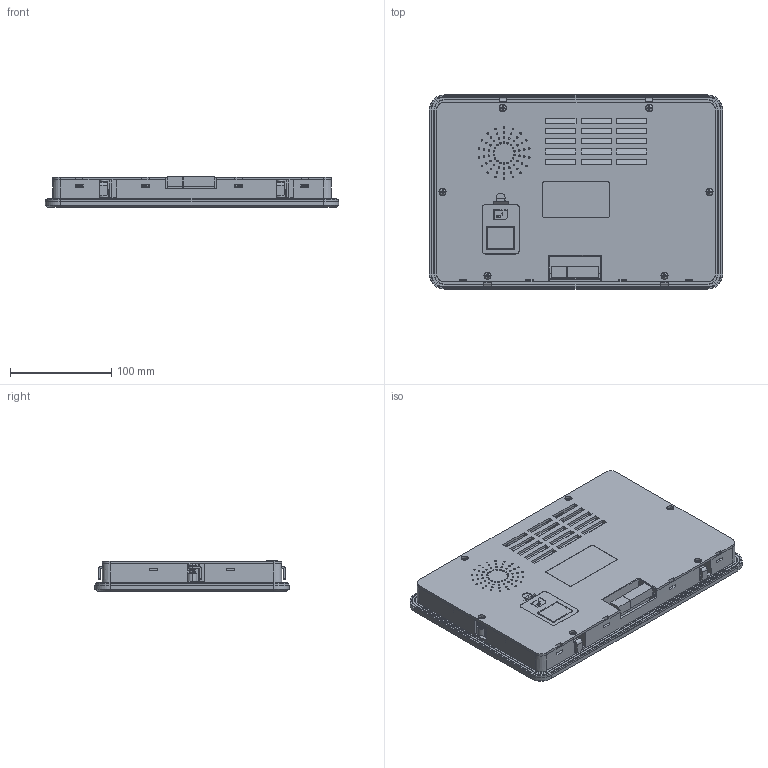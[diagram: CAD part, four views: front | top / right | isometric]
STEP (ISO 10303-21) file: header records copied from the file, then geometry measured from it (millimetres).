
FILE_DESCRIPTION((''),'2;1');
FILE_NAME('DMG10600T101-A5WT','2021-10-09T',('Administrator'),(''),'PRO/ENGINEER BY PARAMETRIC TECHNOLOGY CORPORATION, 2011310','PRO/ENGINEER BY PARAMETRIC TECHNOLOGY CORPORATION, 2011310','');
FILE_SCHEMA(('CONFIG_CONTROL_DESIGN','SHAPE_APPEARANCE_LAYERS_GROUPS'));
Products named in the file (1): DMG10600T101-A5WT
Bounding box: 290 x 192 x 30.1 mm (x, y, z)
Volume: 639704.9 mm3; surface area: 467902.3 mm2
Topology: 1 solids, 17 shells, 2394 faces, 6712 edges, 4365 vertices
Faces by surface type: plane 1771, cylinder 555, bspline 38, cone 22, torus 8
Entity records: 100688 total; most frequent: CARTESIAN_POINT 23541, ORIENTED_EDGE 13424, DIRECTION 12475, EDGE_CURVE 6712, VECTOR 5249, LINE 5249, VERTEX_POINT 4365, AXIS2_PLACEMENT_3D 3613
